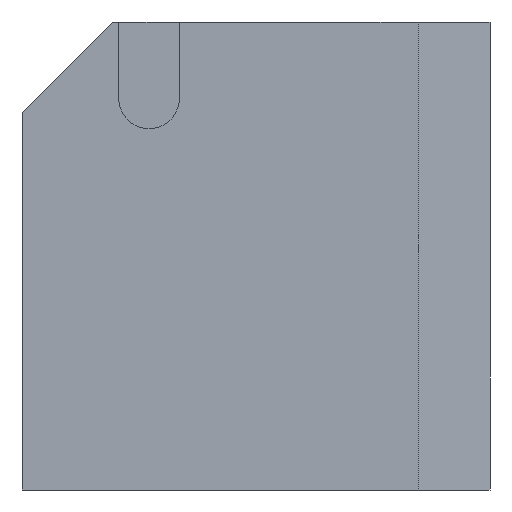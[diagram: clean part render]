
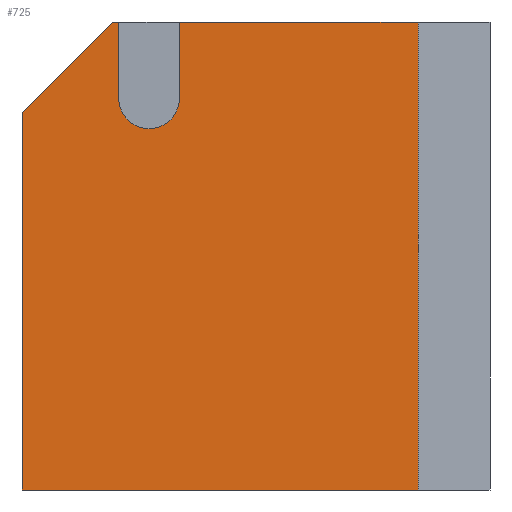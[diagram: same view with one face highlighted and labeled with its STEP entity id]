
A CAD part, left-side view. The second image highlights one B-rep face of the part: STEP entity #725.
In plain terms, the highlighted planar face has unit normal (-1, 0, 0).
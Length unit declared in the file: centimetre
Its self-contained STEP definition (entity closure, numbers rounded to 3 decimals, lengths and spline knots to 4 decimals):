
#18 = DIRECTION ( 'NONE',  ( -1., 0., 0. ) ) ;
#22 = CARTESIAN_POINT ( 'NONE',  ( 0., 1000., 1000. ) ) ;
#27 = EDGE_CURVE ( 'NONE', #752, #295, #554, .T. ) ;
#51 = CARTESIAN_POINT ( 'NONE',  ( 0., 1000., 0. ) ) ;
#60 = EDGE_CURVE ( 'NONE', #575, #113, #370, .T. ) ;
#62 = CARTESIAN_POINT ( 'NONE',  ( 0., 1000., 807.3555 ) ) ;
#65 = DIRECTION ( 'NONE',  ( 0., 0., -1. ) ) ;
#69 = CARTESIAN_POINT ( 'NONE',  ( 0., 663.7208, 836.9762 ) ) ;
#113 = VERTEX_POINT ( 'NONE', #694 ) ;
#138 = ORIENTED_EDGE ( 'NONE', *, *, #445, .F. ) ;
#151 = ORIENTED_EDGE ( 'NONE', *, *, #221, .T. ) ;
#168 = CARTESIAN_POINT ( 'NONE',  ( 0., 728.5738, 836.9762 ) ) ;
#197 = LINE ( 'NONE', #51, #829 ) ;
#221 = EDGE_CURVE ( 'NONE', #928, #772, #197, .T. ) ;
#228 = DIRECTION ( 'NONE',  ( 0., 0., 1. ) ) ;
#238 = DIRECTION ( 'NONE',  ( 0., 0., -1. ) ) ;
#281 = EDGE_CURVE ( 'NONE', #347, #928, #639, .T. ) ;
#294 = LINE ( 'NONE', #299, #389 ) ;
#295 = VERTEX_POINT ( 'NONE', #783 ) ;
#299 = CARTESIAN_POINT ( 'NONE',  ( 0., 153.6, 1000. ) ) ;
#314 = CARTESIAN_POINT ( 'NONE',  ( 0., 153.6, 0. ) ) ;
#322 = CARTESIAN_POINT ( 'NONE',  ( 0., 807.3555, 1000. ) ) ;
#341 = DIRECTION ( 'NONE',  ( 0., -1., 0. ) ) ;
#347 = VERTEX_POINT ( 'NONE', #62 ) ;
#358 = VECTOR ( 'NONE', #451, 100. ) ;
#370 = CIRCLE ( 'NONE', #675, 64.8529 ) ;
#389 = VECTOR ( 'NONE', #228, 100. ) ;
#391 = FACE_OUTER_BOUND ( 'NONE', #924, .T. ) ;
#423 = DIRECTION ( 'NONE',  ( 0., 0., -1. ) ) ;
#428 = ORIENTED_EDGE ( 'NONE', *, *, #60, .F. ) ;
#437 = VECTOR ( 'NONE', #903, 100. ) ;
#440 = LINE ( 'NONE', #746, #602 ) ;
#445 = EDGE_CURVE ( 'NONE', #295, #575, #949, .T. ) ;
#451 = DIRECTION ( 'NONE',  ( 0., 0., 1. ) ) ;
#474 = DIRECTION ( 'NONE',  ( 0., 0., 1. ) ) ;
#491 = ORIENTED_EDGE ( 'NONE', *, *, #281, .T. ) ;
#492 = EDGE_CURVE ( 'NONE', #654, #868, #857, .T. ) ;
#513 = CARTESIAN_POINT ( 'NONE',  ( 0., 1000., 0. ) ) ;
#531 = LINE ( 'NONE', #69, #358 ) ;
#537 = CARTESIAN_POINT ( 'NONE',  ( 0., 793.4267, 836.9762 ) ) ;
#554 = LINE ( 'NONE', #842, #437 ) ;
#567 = EDGE_CURVE ( 'NONE', #752, #347, #440, .T. ) ;
#571 = ORIENTED_EDGE ( 'NONE', *, *, #492, .F. ) ;
#575 = VERTEX_POINT ( 'NONE', #537 ) ;
#602 = VECTOR ( 'NONE', #808, 100. ) ;
#610 = EDGE_CURVE ( 'NONE', #113, #654, #531, .T. ) ;
#620 = DIRECTION ( 'NONE',  ( 1., 0., 0. ) ) ;
#628 = ORIENTED_EDGE ( 'NONE', *, *, #27, .F. ) ;
#639 = LINE ( 'NONE', #790, #734 ) ;
#643 = VECTOR ( 'NONE', #936, 100. ) ;
#654 = VERTEX_POINT ( 'NONE', #901 ) ;
#659 = EDGE_CURVE ( 'NONE', #772, #868, #294, .T. ) ;
#675 = AXIS2_PLACEMENT_3D ( 'NONE', #168, #18, #474 ) ;
#684 = ORIENTED_EDGE ( 'NONE', *, *, #567, .T. ) ;
#694 = CARTESIAN_POINT ( 'NONE',  ( 0., 663.7208, 836.9762 ) ) ;
#725 = ADVANCED_FACE ( 'NONE', ( #391 ), #840, .F. ) ;
#734 = VECTOR ( 'NONE', #423, 100. ) ;
#746 = CARTESIAN_POINT ( 'NONE',  ( 0., 807.3555, 1000. ) ) ;
#749 = AXIS2_PLACEMENT_3D ( 'NONE', #22, #620, #238 ) ;
#752 = VERTEX_POINT ( 'NONE', #322 ) ;
#772 = VERTEX_POINT ( 'NONE', #314 ) ;
#783 = CARTESIAN_POINT ( 'NONE',  ( 0., 793.4267, 1000. ) ) ;
#789 = CARTESIAN_POINT ( 'NONE',  ( 0., 1000., 1000. ) ) ;
#790 = CARTESIAN_POINT ( 'NONE',  ( 0., 1000., 1000. ) ) ;
#791 = CARTESIAN_POINT ( 'NONE',  ( 0., 793.4267, 1000. ) ) ;
#808 = DIRECTION ( 'NONE',  ( 0., 0.707, -0.707 ) ) ;
#824 = ORIENTED_EDGE ( 'NONE', *, *, #659, .T. ) ;
#829 = VECTOR ( 'NONE', #341, 100. ) ;
#840 = PLANE ( 'NONE',  #749 ) ;
#842 = CARTESIAN_POINT ( 'NONE',  ( 0., 1000., 1000. ) ) ;
#857 = LINE ( 'NONE', #789, #643 ) ;
#868 = VERTEX_POINT ( 'NONE', #927 ) ;
#901 = CARTESIAN_POINT ( 'NONE',  ( 0., 663.7208, 1000. ) ) ;
#903 = DIRECTION ( 'NONE',  ( 0., -1., 0. ) ) ;
#905 = VECTOR ( 'NONE', #65, 100. ) ;
#924 = EDGE_LOOP ( 'NONE', ( #428, #138, #628, #684, #491, #151, #824, #571, #925 ) ) ;
#925 = ORIENTED_EDGE ( 'NONE', *, *, #610, .F. ) ;
#927 = CARTESIAN_POINT ( 'NONE',  ( 0., 153.6, 1000. ) ) ;
#928 = VERTEX_POINT ( 'NONE', #513 ) ;
#936 = DIRECTION ( 'NONE',  ( 0., -1., 0. ) ) ;
#949 = LINE ( 'NONE', #791, #905 ) ;
